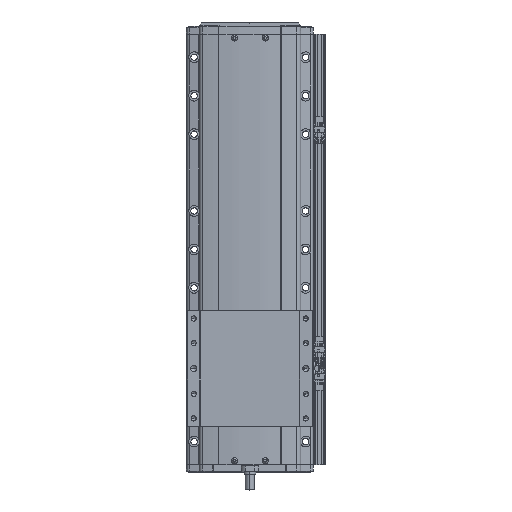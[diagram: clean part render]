
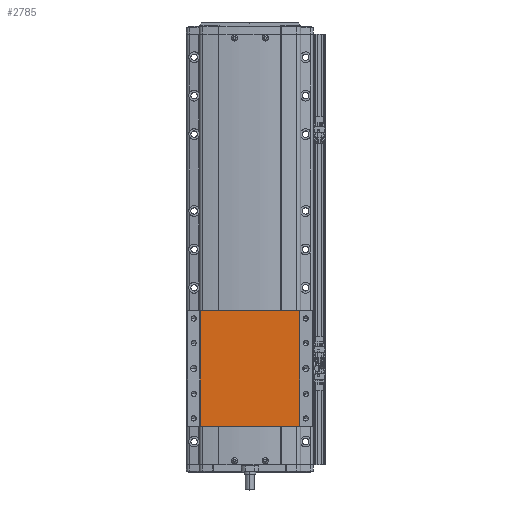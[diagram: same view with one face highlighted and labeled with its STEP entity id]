
A CAD part, top view. The second image highlights one B-rep face of the part: STEP entity #2785.
In plain terms, the highlighted planar face has unit normal (0, 0, 1).
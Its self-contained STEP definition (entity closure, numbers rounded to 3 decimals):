
#2785=ADVANCED_FACE('',(#7688),#7689,.F.);
#7688=FACE_OUTER_BOUND('',#15191,.T.);
#7689=PLANE('',#15192);
#15191=EDGE_LOOP('',(#25035,#25036,#25037,#25038));
#15192=AXIS2_PLACEMENT_3D('',#25039,#25040,#25041);
#25035=ORIENTED_EDGE('',*,*,#46580,.F.);
#25036=ORIENTED_EDGE('',*,*,#46581,.F.);
#25037=ORIENTED_EDGE('',*,*,#46582,.F.);
#25038=ORIENTED_EDGE('',*,*,#46583,.T.);
#25039=CARTESIAN_POINT('',(-600.,222.222,51.5));
#25040=DIRECTION('',(0.,0.,-1.0));
#25041=DIRECTION('',(-1.0,0.,0.));
#46580=EDGE_CURVE('',#55383,#55384,#55385,.T.);
#46581=EDGE_CURVE('',#55386,#55383,#55387,.T.);
#46582=EDGE_CURVE('',#55388,#55386,#55389,.T.);
#46583=EDGE_CURVE('',#55388,#55384,#55390,.T.);
#55383=VERTEX_POINT('',#68281);
#55384=VERTEX_POINT('',#68282);
#55385=LINE('',#68283,#68284);
#55386=VERTEX_POINT('',#68285);
#55387=LINE('',#68286,#68287);
#55388=VERTEX_POINT('',#68288);
#55389=LINE('',#68289,#68290);
#55390=LINE('',#68291,#68292);
#68281=CARTESIAN_POINT('',(-664.376,372.222,51.5));
#68282=CARTESIAN_POINT('',(-535.624,372.222,51.5));
#68283=CARTESIAN_POINT('',(-535.624,372.222,51.5));
#68284=VECTOR('',#86338,10.0);
#68285=CARTESIAN_POINT('',(-664.376,222.222,51.5));
#68286=CARTESIAN_POINT('',(-664.376,222.222,51.5));
#68287=VECTOR('',#86339,10.0);
#68288=CARTESIAN_POINT('',(-535.624,222.222,51.5));
#68289=CARTESIAN_POINT('',(-535.624,222.222,51.5));
#68290=VECTOR('',#86340,10.0);
#68291=CARTESIAN_POINT('',(-535.624,222.222,51.5));
#68292=VECTOR('',#86341,10.0);
#86338=DIRECTION('',(1.0,0.,0.));
#86339=DIRECTION('',(0.,1.0,0.));
#86340=DIRECTION('',(-1.0,0.,0.));
#86341=DIRECTION('',(0.,1.0,0.));
